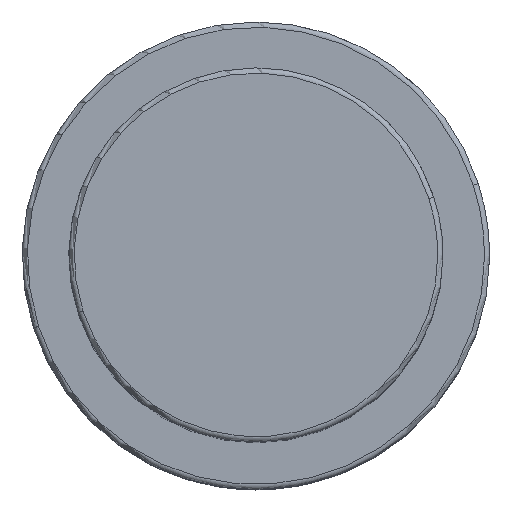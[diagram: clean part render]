
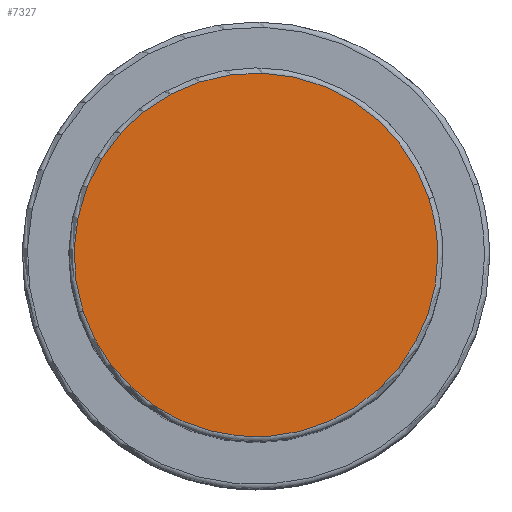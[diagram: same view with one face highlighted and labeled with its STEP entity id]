
A CAD part, top view. The second image highlights one B-rep face of the part: STEP entity #7327.
In plain terms, the highlighted planar face has unit normal (0, 0, 1).
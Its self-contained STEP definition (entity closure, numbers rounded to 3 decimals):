
#7293=CARTESIAN_POINT('',(17.5,0.0,73.0));
#7294=VERTEX_POINT('',#7293);
#7295=CARTESIAN_POINT('',(16.643,5.408,73.0));
#7296=VERTEX_POINT('',#7295);
#7297=CARTESIAN_POINT('',(0.0,0.0,73.0));
#7298=DIRECTION('',(0.0,0.0,1.0));
#7299=DIRECTION('',(1.0,0.0,0.0));
#7300=AXIS2_PLACEMENT_3D('',#7297,#7298,#7299);
#7301=CIRCLE('',#7300,17.5);
#7302=EDGE_CURVE('no 3643',#7294,#7296,#7301,.T.);
#7303=ORIENTED_EDGE('',*,*,#7302,.T.);
#7304=CARTESIAN_POINT('',(-16.643,-5.408,73.0));
#7305=VERTEX_POINT('',#7304);
#7306=CARTESIAN_POINT('',(0.0,0.0,73.0));
#7307=DIRECTION('',(0.0,0.0,1.0));
#7308=DIRECTION('',(1.0,0.0,0.0));
#7309=AXIS2_PLACEMENT_3D('',#7306,#7307,#7308);
#7310=CIRCLE('',#7309,17.5);
#7311=EDGE_CURVE('no 3649',#7296,#7305,#7310,.T.);
#7312=ORIENTED_EDGE('',*,*,#7311,.T.);
#7313=CARTESIAN_POINT('',(0.0,0.0,73.0));
#7314=DIRECTION('',(0.0,0.0,1.0));
#7315=DIRECTION('',(1.0,0.0,0.0));
#7316=AXIS2_PLACEMENT_3D('',#7313,#7314,#7315);
#7317=CIRCLE('',#7316,17.5);
#7318=EDGE_CURVE('no 3653',#7305,#7294,#7317,.T.);
#7319=ORIENTED_EDGE('',*,*,#7318,.T.);
#7320=EDGE_LOOP('',(#7303,#7312,#7319));
#7321=FACE_OUTER_BOUND('',#7320,.T.);
#7322=CARTESIAN_POINT('',(0.0,0.0,73.0));
#7323=DIRECTION('',(0.0,0.0,1.0));
#7324=DIRECTION('',(1.0,0.0,0.0));
#7325=AXIS2_PLACEMENT_3D('',#7322,#7323,#7324);
#7326=PLANE('',#7325);
#7327=ADVANCED_FACE('no 3634',(#7321),#7326,.T.);
